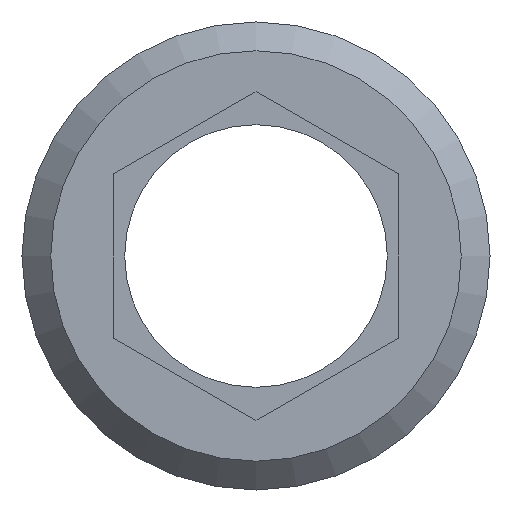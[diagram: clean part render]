
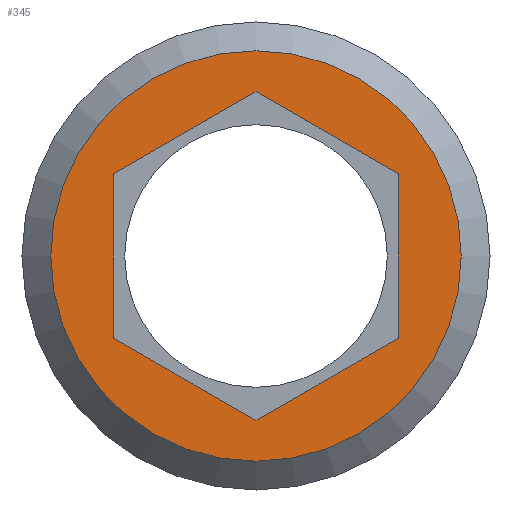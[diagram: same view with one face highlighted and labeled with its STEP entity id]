
A CAD part, front view. The second image highlights one B-rep face of the part: STEP entity #345.
In plain terms, the highlighted planar face has unit normal (0, -1, 0).
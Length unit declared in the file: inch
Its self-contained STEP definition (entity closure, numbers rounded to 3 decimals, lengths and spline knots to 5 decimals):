
#19=FACE_BOUND('',#87,.T.);
#39=CIRCLE('',#390,0.225);
#65=FACE_OUTER_BOUND('',#86,.T.);
#86=EDGE_LOOP('',(#285));
#87=EDGE_LOOP('',(#286,#287,#288,#289,#290,#291));
#95=LINE('',#524,#119);
#99=LINE('',#532,#123);
#102=LINE('',#538,#126);
#105=LINE('',#544,#129);
#108=LINE('',#550,#132);
#111=LINE('',#555,#135);
#119=VECTOR('',#412,0.3937);
#123=VECTOR('',#418,0.3937);
#126=VECTOR('',#423,0.3937);
#129=VECTOR('',#428,0.3937);
#132=VECTOR('',#433,0.3937);
#135=VECTOR('',#438,0.3937);
#143=VERTEX_POINT('',#522);
#144=VERTEX_POINT('',#523);
#147=VERTEX_POINT('',#531);
#149=VERTEX_POINT('',#537);
#151=VERTEX_POINT('',#543);
#153=VERTEX_POINT('',#549);
#166=VERTEX_POINT('',#588);
#177=EDGE_CURVE('',#143,#144,#95,.T.);
#181=EDGE_CURVE('',#147,#143,#99,.T.);
#184=EDGE_CURVE('',#149,#147,#102,.T.);
#187=EDGE_CURVE('',#151,#149,#105,.T.);
#190=EDGE_CURVE('',#153,#151,#108,.T.);
#193=EDGE_CURVE('',#144,#153,#111,.T.);
#209=EDGE_CURVE('',#166,#166,#39,.T.);
#285=ORIENTED_EDGE('',*,*,#209,.F.);
#286=ORIENTED_EDGE('',*,*,#190,.T.);
#287=ORIENTED_EDGE('',*,*,#187,.T.);
#288=ORIENTED_EDGE('',*,*,#184,.T.);
#289=ORIENTED_EDGE('',*,*,#181,.T.);
#290=ORIENTED_EDGE('',*,*,#177,.T.);
#291=ORIENTED_EDGE('',*,*,#193,.T.);
#329=PLANE('',#396);
#345=ADVANCED_FACE('',(#65,#19),#329,.T.);
#390=AXIS2_PLACEMENT_3D('',#589,#479,#480);
#396=AXIS2_PLACEMENT_3D('',#601,#493,#494);
#412=DIRECTION('',(-0.866,0.,-0.5));
#418=DIRECTION('',(0.,0.,-1.));
#423=DIRECTION('',(0.866,0.,-0.5));
#428=DIRECTION('',(0.866,0.,0.5));
#433=DIRECTION('',(0.,0.,1.));
#438=DIRECTION('',(-0.866,0.,0.5));
#479=DIRECTION('center_axis',(0.,1.,0.));
#480=DIRECTION('ref_axis',(0.,0.,1.));
#493=DIRECTION('center_axis',(0.,-1.,0.));
#494=DIRECTION('ref_axis',(0.,0.,-1.));
#522=CARTESIAN_POINT('',(0.156,0.,-0.09007));
#523=CARTESIAN_POINT('',(0.,0.,-0.18013));
#524=CARTESIAN_POINT('',(0.08323,0.,-0.13208));
#531=CARTESIAN_POINT('',(0.156,0.,0.09007));
#532=CARTESIAN_POINT('',(0.156,0.,-0.03297));
#537=CARTESIAN_POINT('',(0.,0.,0.18013));
#538=CARTESIAN_POINT('',(0.07277,0.,0.13812));
#543=CARTESIAN_POINT('',(-0.156,0.,0.09007));
#544=CARTESIAN_POINT('',(-0.15077,0.,0.09308));
#549=CARTESIAN_POINT('',(-0.156,0.,-0.09007));
#550=CARTESIAN_POINT('',(-0.156,0.,-0.12303));
#555=CARTESIAN_POINT('',(-0.00523,0.,-0.17712));
#588=CARTESIAN_POINT('',(0.,0.,-0.225));
#589=CARTESIAN_POINT('Origin',(0.,0.,0.));
#601=CARTESIAN_POINT('Origin',(0.,0.,-0.156));
